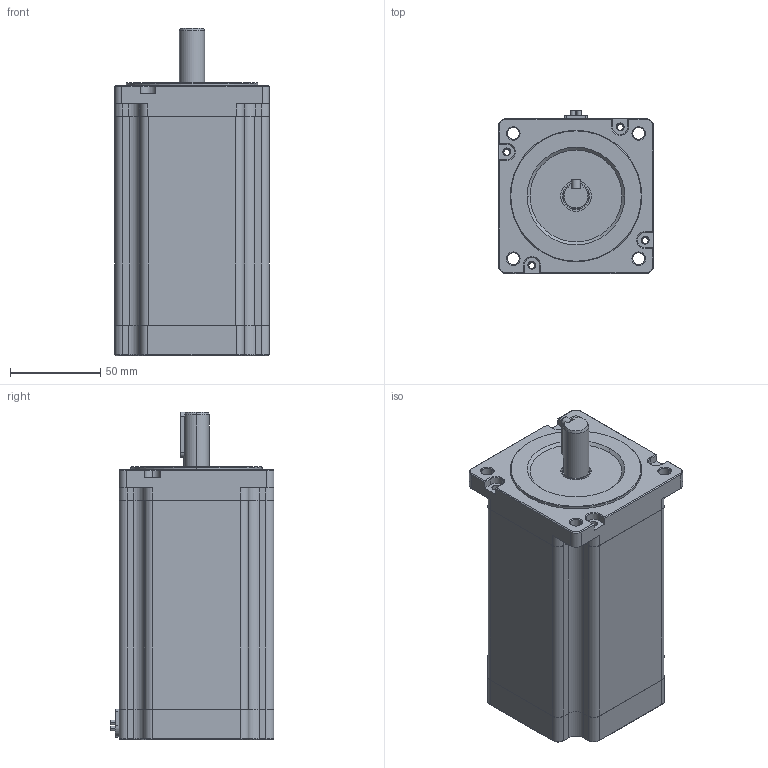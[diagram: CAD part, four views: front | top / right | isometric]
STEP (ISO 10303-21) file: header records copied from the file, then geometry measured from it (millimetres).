
FILE_DESCRIPTION (( 'STEP AP214' ), '1' );
FILE_NAME ('F86-H150梓袧.STEP', '2020-05-12T04:50:21', ( 'hzmg' ), ( '' ), 'SwSTEP 2.0', 'SolidWorks 2016', '' );
FILE_SCHEMA (( 'AUTOMOTIVE_DESIGN' ));
Length unit declared in the file: millimetre
Products named in the file (1): F86-H150梓袧
Bounding box: 86 x 91 x 182 mm (x, y, z)
Volume: 991982.6 mm3; surface area: 73721.8 mm2
Topology: 1 solids, 1 shells, 254 faces, 626 edges, 392 vertices
Faces by surface type: plane 110, cylinder 96, cone 48
Entity records: 9890 total; most frequent: DIRECTION 1376, CARTESIAN_POINT 1308, ORIENTED_EDGE 1252, EDGE_CURVE 626, AXIS2_PLACEMENT_3D 498, VERTEX_POINT 392, VECTOR 380, LINE 380
